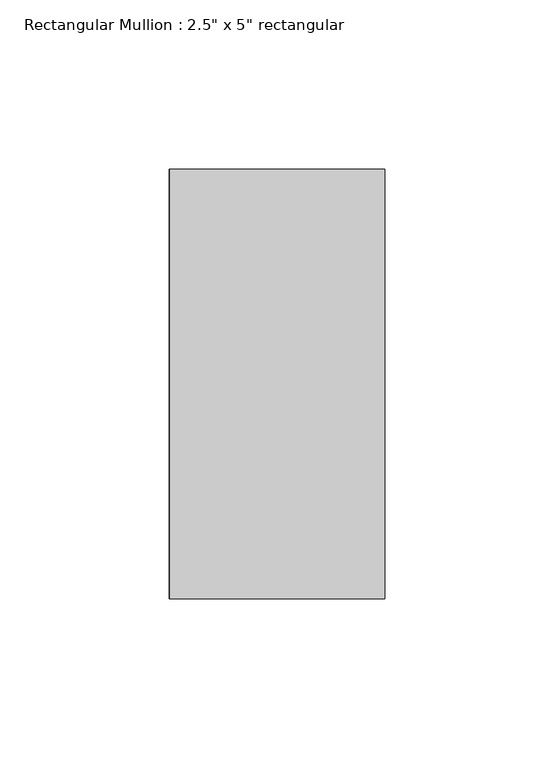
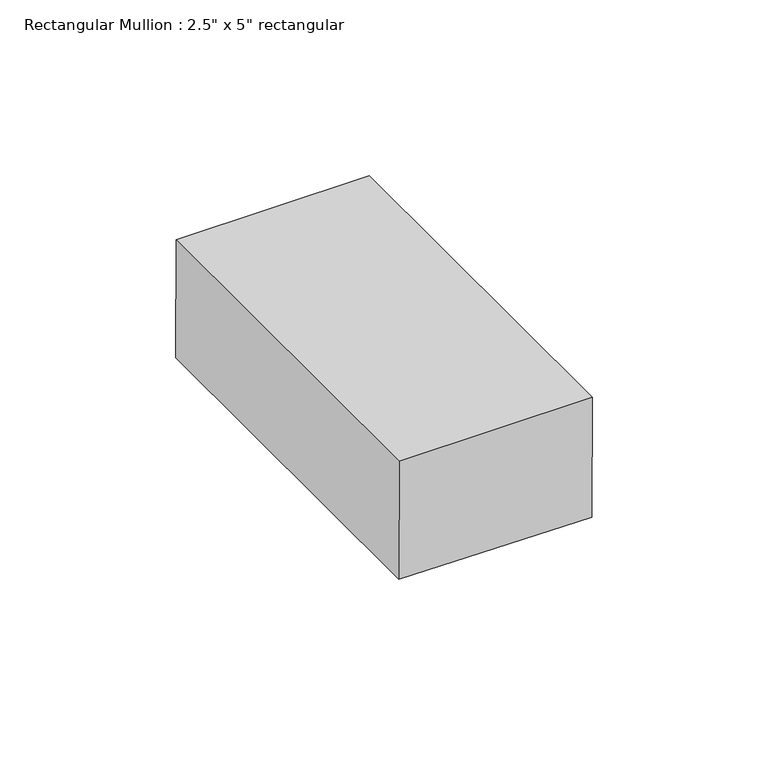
"""IFC4 building model written with IfcOpenShell, lengths in millimetres: member geometry."""

from ifc_helpers import new_model, si_unit, point, frame, frame_2d, origin, place, context, project, spatial, polyline, circle_curve, trimmed, segment, composite_curve, outline, extrude, source, transform, mapped, element, save


def member_e8d631ba(model_context):
    return source(origin(), model_context, "Body", "SweptSolid", [
        extrude(outline(composite_curve([segment(trimmed(circle_curve(frame_2d((0.0, -3962.4000002)), 3962.4000002), [point((-41.6487942, -0.2188913))], [point((0.0, 0.0))], False, "CARTESIAN"), True, "CONTINUOUS"), segment(polyline([(0.0, 0.0), (0.0, -63.5)]), True, "CONTINUOUS"), segment(trimmed(circle_curve(frame_2d((0.0, -3962.4000002)), 3898.9000002), [point((0.0, -63.5))], [point((-40.9813456, -63.7153835))], True, "CARTESIAN"), True, "CONTINUOUS"), segment(polyline([(-40.9813456, -63.7153835), (-41.6487942, -0.2188913)]), True, "CONTINUOUS")], self_intersect=False)), frame((0.0, -63.5, 0.0), z_axis=(0.0, 1.0, 0.0), x_axis=(0.0, 0.0, 1.0)), (0.0, 0.0, 1.0), 127.0),
    ])


if __name__ == "__main__":
    model = new_model("IFC4")
    model_context = context("Model", 3, world=origin())
    ifc_project = project(units=[si_unit("LENGTHUNIT", "METRE", prefix="MILLI")], contexts=[model_context])
    site = spatial("IfcSite", under=ifc_project)
    building = spatial("IfcBuilding", under=site)
    placement = place(None, origin())
    member_shape = member_e8d631ba(model_context)
    element("IfcMember", 1, ObjectType="Rectangular Mullion : 2.5\" x 5\" rectangular", at=placement, inside=building, context=model_context, shape_type="MappedRepresentation", body=[
        mapped(member_shape, transform((0.0, 0.0, 0.0), x_axis=(1.0, 0.0, 0.0), y_axis=(0.0, 1.0, 0.0), z_axis=(0.0, 0.0, 1.0))),
    ])
    save(model, "model.ifc")
